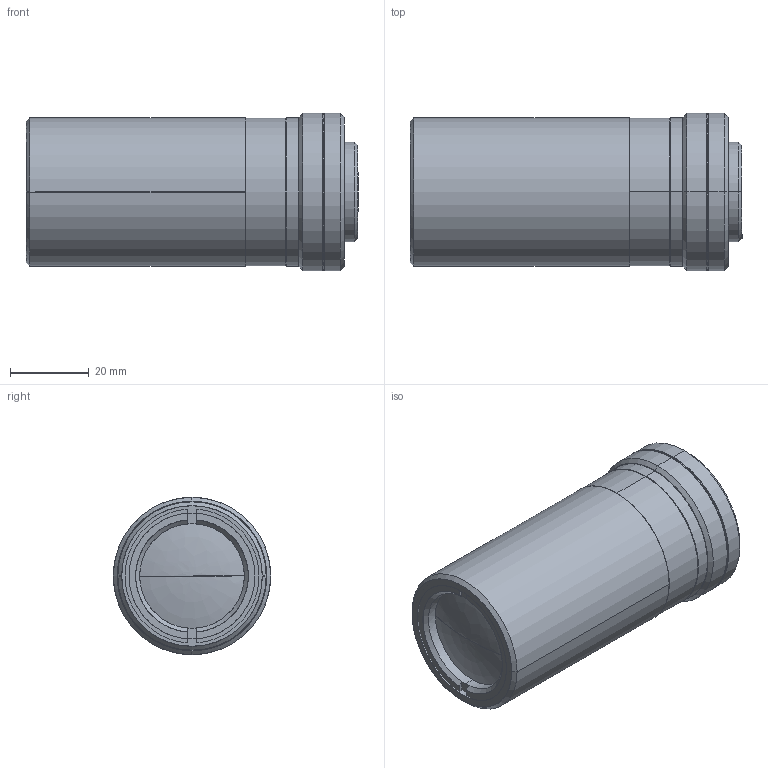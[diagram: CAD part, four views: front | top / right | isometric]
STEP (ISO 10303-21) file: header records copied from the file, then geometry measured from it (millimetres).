
FILE_DESCRIPTION(('LS-TCL-0173'),'2;1');
FILE_NAME('LS-TCL-0173.stp','2026-10-15T21:54:24',('LumaSpec Vision'),('LumaSpec Vision'),'LumaSpec Vision','LumaSpec Vision','');
FILE_SCHEMA(('AUTOMOTIVE_DESIGN { 1 0 10303 214 1 1 1 1 }'));
Length unit declared in the file: millimetre
Products named in the file (65): LumaSpec Vision
Assembly tree (64 placements, depth 2):
  LumaSpec Vision
    LumaSpec Vision
    LumaSpec Vision
    LumaSpec Vision
    LumaSpec Vision
    LumaSpec Vision
    LumaSpec Vision
    LumaSpec Vision
    LumaSpec Vision
    LumaSpec Vision
    LumaSpec Vision
    LumaSpec Vision
    LumaSpec Vision
    LumaSpec Vision
    LumaSpec Vision
    LumaSpec Vision
    LumaSpec Vision
    LumaSpec Vision
    LumaSpec Vision
    LumaSpec Vision
    LumaSpec Vision
    LumaSpec Vision
    LumaSpec Vision
    LumaSpec Vision
    LumaSpec Vision
    LumaSpec Vision
    LumaSpec Vision
    LumaSpec Vision
    LumaSpec Vision
    LumaSpec Vision
    LumaSpec Vision
    LumaSpec Vision
    LumaSpec Vision
    LumaSpec Vision
    LumaSpec Vision
    LumaSpec Vision
    LumaSpec Vision
    LumaSpec Vision
    LumaSpec Vision
    LumaSpec Vision
    LumaSpec Vision
    LumaSpec Vision
    LumaSpec Vision
    LumaSpec Vision
    LumaSpec Vision
    LumaSpec Vision
    LumaSpec Vision
    LumaSpec Vision
    LumaSpec Vision
    LumaSpec Vision
    LumaSpec Vision
    LumaSpec Vision
    LumaSpec Vision
    LumaSpec Vision
    LumaSpec Vision
    LumaSpec Vision
    LumaSpec Vision
    LumaSpec Vision
    LumaSpec Vision
    LumaSpec Vision
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Bounding box: 84.36 x 40 x 40 mm (x, y, z)
Surface area: 17998.5 mm2 (no closed solid volume)
Topology: 0 solids, 64 shells, 64 faces, 1746 edges, 1744 vertices
Faces by surface type: revolution 44, bspline 20
Entity records: 28082 total; most frequent: CARTESIAN_POINT 11905, B_SPLINE_CURVE_WITH_KNOTS 3290, ORIENTED_EDGE 1744, EDGE_CURVE 1744, VERTEX_POINT 1744, SURFACE_CURVE 1744, PCURVE 1744, DEFINITIONAL_REPRESENTATION 1744
